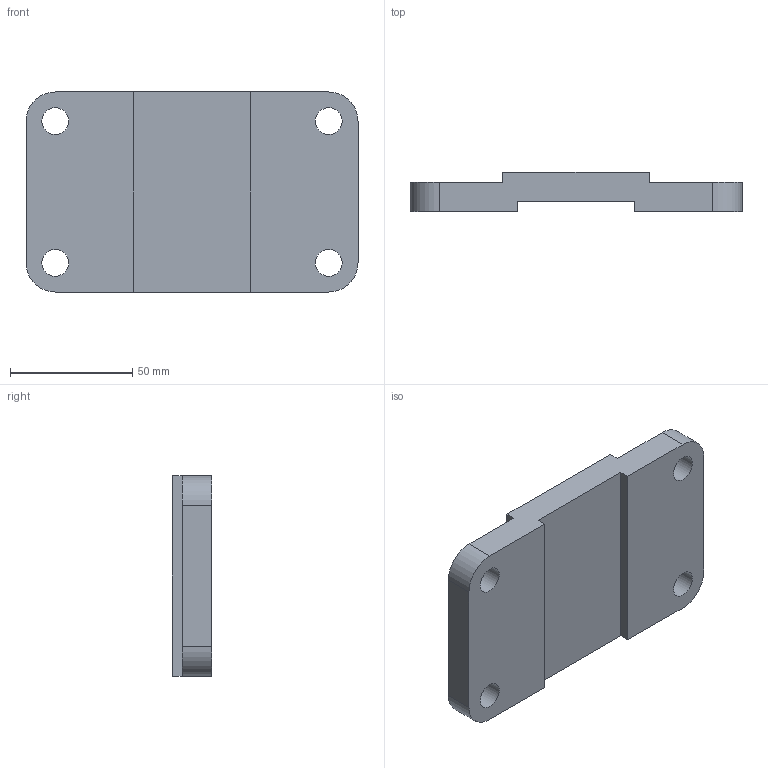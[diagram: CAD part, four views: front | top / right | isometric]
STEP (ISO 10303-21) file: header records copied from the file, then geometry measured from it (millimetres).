
FILE_DESCRIPTION(/* description */ (''),/* implementation_level */ '2;1');
FILE_NAME(/* name */ 'C:\Users\user\Documents\EIA\Cursos\Expresión Gráfica\Prácticas\Ensamble rueda\PT 1 - Placa superior.stp',/* time_stamp */ '2020-04-25T01:02:51-05:00',/* author */ ('user'),/* organization */ (''),/* preprocessor_version */ 'ST-DEVELOPER v18',/* originating_system */ 'Autodesk Inventor 2020',/* authorisation */ '');
FILE_SCHEMA (('AUTOMOTIVE_DESIGN { 1 0 10303 214 3 1 1 }'));
Length unit declared in the file: millimetre
Products named in the file (1): PT 1 - Placa superior
Bounding box: 136 x 16 x 82 mm (x, y, z)
Volume: 131715.1 mm3; surface area: 29348.1 mm2
Topology: 1 solids, 1 shells, 22 faces, 64 edges, 44 vertices
Faces by surface type: plane 14, cylinder 8
Full cylindrical faces by diameter (mm): 11 x4
Entity records: 797 total; most frequent: CARTESIAN_POINT 131, DIRECTION 130, ORIENTED_EDGE 128, EDGE_CURVE 64, LINE 44, VECTOR 44, VERTEX_POINT 44, AXIS2_PLACEMENT_3D 43
